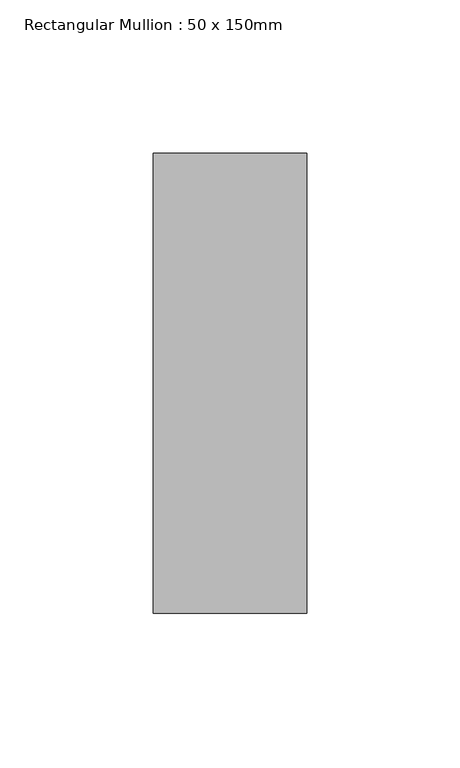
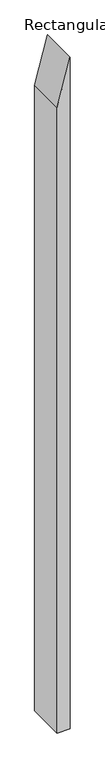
"""IFC4 building model written with IfcOpenShell, lengths in millimetres: member geometry, Rectangular Mullion : 50 x 150mm."""

import ifcopenshell
import ifcopenshell.guid

model = None  # the IFC model being written
_history = None  # IfcOwnerHistory: only IFC2X3 demands one
_inside = {}  # id of a spatial element -> (the spatial element, [elements in it])
_under = {}  # id of a project, library or spatial element -> (it, [spatial elements below it])
_declared = {}  # id of a project -> (the project, [libraries it declares])
_typed = {}  # id of a type object -> (the type object, [elements of that type])
_made_of = {}  # id of a material, layer set ... -> (it, [elements and type objects made of it])


def new_model(schema):
    """Start an empty IFC model of exactly this schema.

    Asked for "IFC4X3", IfcOpenShell would pick the latest addendum, in which some entities
    have other attributes; the version numbers below select the first issue.
    IFC2X3 requires an IfcOwnerHistory on every rooted entity: one is made here for all.
    """
    global model, _history
    if schema == "IFC4X3":
        model = ifcopenshell.file(schema_version=(4, 3, 0, 0))
    else:
        model = ifcopenshell.file(schema=schema)
    _inside.clear()
    _under.clear()
    _declared.clear()
    _typed.clear()
    _made_of.clear()
    _history = None
    if model.schema == "IFC2X3":
        org = make("IfcOrganization", Name="unknown")
        user = make(
            "IfcPersonAndOrganization",
            ThePerson=make("IfcPerson", FamilyName="unknown"),
            TheOrganization=org,
        )
        app = make(
            "IfcApplication",
            ApplicationDeveloper=org,
            Version="unknown",
            ApplicationFullName="unknown",
            ApplicationIdentifier="unknown",
        )
        _history = make(
            "IfcOwnerHistory",
            OwningUser=user,
            OwningApplication=app,
            ChangeAction="ADDED",
            CreationDate=0,
        )
    return model


def make(cls, **values):
    """One entity of the class cls with the attributes given. An attribute that is None is left unset."""
    return model.create_entity(
        cls, **{name: value for name, value in values.items() if value is not None}
    )


def rooted(cls, **values):
    """An entity with a GlobalId (a new one), such as an element, a storey or a relation."""
    return make(cls, GlobalId=ifcopenshell.guid.new(), OwnerHistory=_history, **values)


def si_unit(unit_type, name, prefix=None):
    """IfcSIUnit, for example si_unit("LENGTHUNIT", "METRE", prefix="MILLI")."""
    return make("IfcSIUnit", UnitType=unit_type, Prefix=prefix, Name=name)


def assignment(units):
    """IfcUnitAssignment: the units of a project."""
    return None if units is None else make("IfcUnitAssignment", Units=units)


def point(xyz):
    """IfcCartesianPoint."""
    return None if xyz is None else make("IfcCartesianPoint", Coordinates=xyz)


def direction(xyz):
    """IfcDirection."""
    return None if xyz is None else make("IfcDirection", DirectionRatios=xyz)


def frame(location, z_axis=None, x_axis=None):
    """IfcAxis2Placement3D, a coordinate frame: its origin and axes. An axis left out is left unset."""
    return make(
        "IfcAxis2Placement3D",
        Location=point(location),
        Axis=direction(z_axis),
        RefDirection=direction(x_axis),
    )


def origin():
    """The frame at (0, 0, 0) with its axes left unset."""
    return frame((0.0, 0.0, 0.0))


def place(relative_to, where):
    """IfcLocalPlacement: puts the frame where relative to a parent placement (None: the world)."""
    return make(
        "IfcLocalPlacement", PlacementRelTo=relative_to, RelativePlacement=where
    )


def context(
    kind, dimensions, precision=None, world=None, true_north=None, identifier=None
):
    """IfcGeometricRepresentationContext, for example the 3D "Model" context."""
    return make(
        "IfcGeometricRepresentationContext",
        ContextIdentifier=identifier,
        ContextType=kind,
        CoordinateSpaceDimension=dimensions,
        Precision=precision,
        WorldCoordinateSystem=world,
        TrueNorth=true_north,
    )


def project(units=None, contexts=None):
    """IfcProject with its units and contexts."""
    return rooted(
        "IfcProject",
        Name="project",
        RepresentationContexts=contexts,
        UnitsInContext=assignment(units),
    )


def spatial(cls, under=None, at=None, **own):
    """A site, building, storey or space (cls), placed at a placement, below another one or the project."""
    s = rooted(cls, ObjectPlacement=at, **own)
    if under is not None:
        _under.setdefault(under.id(), (under, []))[1].append(s)
    return s


def polyline(points):
    """IfcPolyline through the points."""
    return make("IfcPolyline", Points=[point(p) for p in points])


def outline(outer, holes=None, kind="AREA"):
    """IfcArbitraryClosedProfileDef: a profile drawn as a closed curve; with holes, ...WithVoids."""
    if holes is None:
        return make("IfcArbitraryClosedProfileDef", ProfileType=kind, OuterCurve=outer)
    return make(
        "IfcArbitraryProfileDefWithVoids",
        ProfileType=kind,
        OuterCurve=outer,
        InnerCurves=holes,
    )


def extrude(swept, where, along, depth):
    """IfcExtrudedAreaSolid: the profile swept, set in the frame where, extruded along a direction by depth."""
    return make(
        "IfcExtrudedAreaSolid",
        SweptArea=swept,
        Position=where,
        ExtrudedDirection=direction(along),
        Depth=depth,
    )


def shape(context_of_items, identifier, shape_type, items):
    """IfcShapeRepresentation: the items that make up one representation, for example the "Body"."""
    return make(
        "IfcShapeRepresentation",
        ContextOfItems=context_of_items,
        RepresentationIdentifier=identifier,
        RepresentationType=shape_type,
        Items=items,
    )


def source(mapping_origin, context_of_items, identifier, shape_type, items):
    """IfcRepresentationMap: a shape defined once, which mapped items show again and again."""
    return make(
        "IfcRepresentationMap",
        MappingOrigin=mapping_origin,
        MappedRepresentation=shape(context_of_items, identifier, shape_type, items),
    )


def transform(
    local_origin,
    x_axis=None,
    y_axis=None,
    z_axis=None,
    scale=None,
    scale2=None,
    scale3=None,
    uniform=True,
):
    """IfcCartesianTransformationOperator3D, or its non-uniform kind. x_axis, y_axis, z_axis: its Axis1, 2, 3."""
    if uniform:
        return make(
            "IfcCartesianTransformationOperator3D",
            Axis1=direction(x_axis),
            Axis2=direction(y_axis),
            LocalOrigin=point(local_origin),
            Scale=scale,
            Axis3=direction(z_axis),
        )
    return make(
        "IfcCartesianTransformationOperator3DnonUniform",
        Axis1=direction(x_axis),
        Axis2=direction(y_axis),
        LocalOrigin=point(local_origin),
        Scale=scale,
        Axis3=direction(z_axis),
        Scale2=scale2,
        Scale3=scale3,
    )


def mapped(mapping_source, mapping_target):
    """IfcMappedItem: shows the shape of a source again, moved by a transform."""
    return make(
        "IfcMappedItem", MappingSource=mapping_source, MappingTarget=mapping_target
    )


def made_of(thing, what):
    """Note that an element or type object is made of a material, layer set ...; save() writes the relation."""
    if what is not None:
        _made_of.setdefault(what.id(), (what, []))[1].append(thing)
    return thing


def element(
    cls,
    number,
    at=None,
    inside=None,
    cuts=None,
    type_object=None,
    material=None,
    context=None,
    identifier="Body",
    shape_type=None,
    held_by="IfcProductDefinitionShape",
    body=None,
    shapes=None,
    **own,
):
    """One element of the class cls, such as IfcWall. Its Tag is "e" and its number.

    at: its placement. inside: the storey or other place that contains it. cuts: it is an
    opening in that element (IfcRelVoidsElement). A single representation is given by context,
    identifier, shape_type and body (its items); several are given by shapes. held_by: the class
    of the entity that holds the representations. save() writes the other relations.
    """
    e = rooted(cls, Tag="e%d" % number, ObjectPlacement=at, **own)
    if body is not None:
        shapes = [shape(context, identifier, shape_type, body)]
    if shapes is not None:
        e.Representation = make(held_by, Representations=shapes)
    if inside is not None:
        _inside.setdefault(inside.id(), (inside, []))[1].append(e)
    if cuts is not None:
        rooted(
            "IfcRelVoidsElement", RelatingBuildingElement=cuts, RelatedOpeningElement=e
        )
    if type_object is not None:
        _typed.setdefault(type_object.id(), (type_object, []))[1].append(e)
    return made_of(e, material)


def aggregate(whole, parts):
    """IfcRelAggregates: a whole, such as a stair, and the parts it consists of."""
    return rooted("IfcRelAggregates", RelatingObject=whole, RelatedObjects=parts)


def save(model, path):
    """Write the relations noted so far, then the file.

    IfcRelAggregates (storeys below a building ...), IfcRelContainedInSpatialStructure (elements
    in a storey), IfcRelDefinesByType, IfcRelAssociatesMaterial and IfcRelDeclares: one each for
    every whole, place, type object, material and project.
    """
    for whole, parts in _under.values():
        aggregate(whole, parts)
    for where, things in _inside.values():
        rooted(
            "IfcRelContainedInSpatialStructure",
            RelatedElements=things,
            RelatingStructure=where,
        )
    for kind, things in _typed.values():
        rooted("IfcRelDefinesByType", RelatedObjects=things, RelatingType=kind)
    for what, things in _made_of.values():
        rooted("IfcRelAssociatesMaterial", RelatedObjects=things, RelatingMaterial=what)
    for by, libraries in _declared.values():
        rooted("IfcRelDeclares", RelatingContext=by, RelatedDefinitions=libraries)
    model.write(path)


def rectangular_mullion_50_x_150mm_cf5372f2(model_context):
    return source(origin(), model_context, "Body", "SweptSolid", [
        extrude(outline(polyline([(0.0, 0.0), (-186.6025406, -50.0), (-2728.375134, -50.0), (-2728.375134, 0.0), (0.0, 0.0)])), frame((0.0, -75.0, 0.0), z_axis=(0.0, 1.0, 0.0), x_axis=(0.0, 0.0, 1.0)), (0.0, 0.0, 1.0), 150.0),
    ])


if __name__ == "__main__":
    model = new_model("IFC4")
    model_context = context("Model", 3, world=origin())
    ifc_project = project(units=[si_unit("LENGTHUNIT", "METRE", prefix="MILLI")], contexts=[model_context])
    site = spatial("IfcSite", under=ifc_project)
    building = spatial("IfcBuilding", under=site)
    placement = place(None, origin())
    rectangular_mullion_50_x_150mm_shape = rectangular_mullion_50_x_150mm_cf5372f2(model_context)
    element("IfcMember", 1, ObjectType="Rectangular Mullion : 50 x 150mm", at=placement, inside=building, context=model_context, shape_type="MappedRepresentation", body=[
        mapped(rectangular_mullion_50_x_150mm_shape, transform((0.0, 0.0, 0.0), x_axis=(1.0, 0.0, 0.0), y_axis=(0.0, 1.0, 0.0), z_axis=(0.0, 0.0, 1.0))),
    ])
    save(model, "model.ifc")
